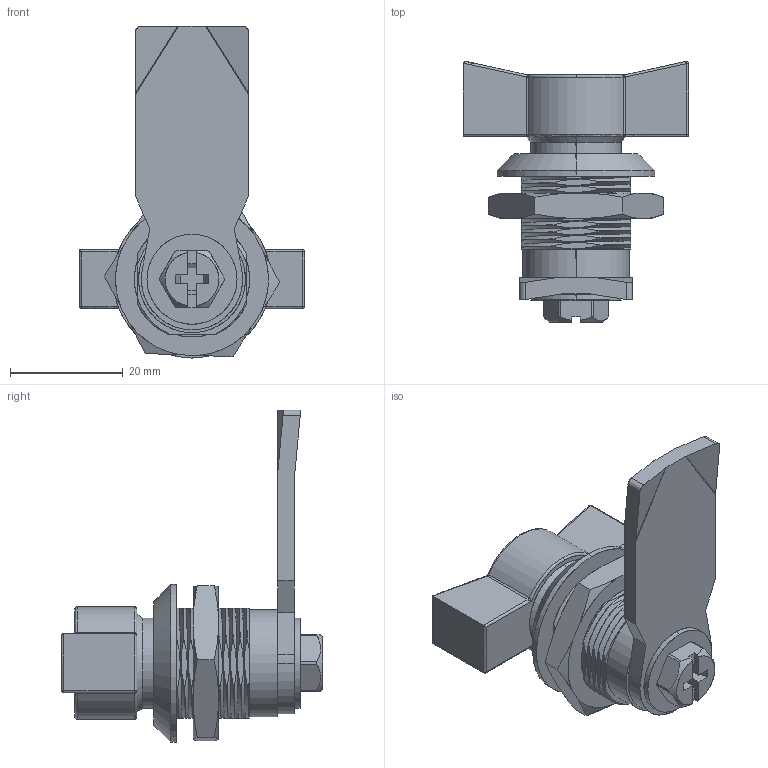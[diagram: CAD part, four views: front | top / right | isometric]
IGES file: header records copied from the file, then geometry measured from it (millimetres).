
Start section: SolidWorks IGES file using analytic representation for surfaces
Global section: file name: D:\尚坤工业图纸\SK1--门锁系列\SK1-097-2\SK1-097-2.IGS; native system: SolidWorks 2015; preprocessor: SolidWorks 2015; author: admin; date: 181101.105453; units: millimetre
Bounding box: 40 x 46.4 x 59 mm (x, y, z)
Surface area: 10015.7 mm2 (no closed solid volume)
Topology: 0 solids, 0 shells, 295 faces, 3530 edges, 3522 vertices
Faces by surface type: bspline 159, revolution 136
